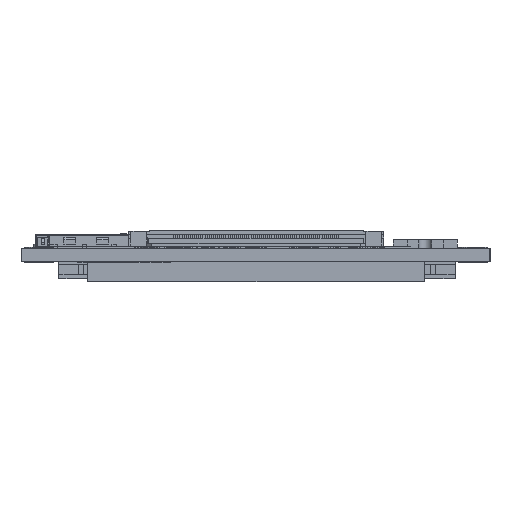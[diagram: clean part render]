
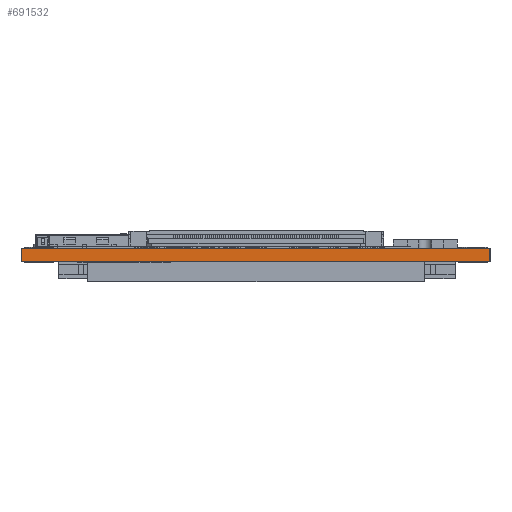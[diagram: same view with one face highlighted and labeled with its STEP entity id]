
A CAD part, front view. The second image highlights one B-rep face of the part: STEP entity #691532.
In plain terms, the highlighted free-form (B-spline) face has degree [1, 1] with [2, 2] control points.
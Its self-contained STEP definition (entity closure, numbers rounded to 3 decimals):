
#123=(GEOMETRIC_REPRESENTATION_CONTEXT(2)PARAMETRIC_REPRESENTATION_CONTEXT()REPRESENTATION_CONTEXT('',''));
#691433=CARTESIAN_POINT('',(0.,0.,-0.8));
#691434=CARTESIAN_POINT('',(0.,0.,0.8));
#691435=CARTESIAN_POINT('',(56.,0.,-0.8));
#691436=CARTESIAN_POINT('',(56.,0.,0.8));
#691437=B_SPLINE_SURFACE_WITH_KNOTS('',1,1,((#691433,#691434),(#691435,#691436)),.UNSPECIFIED.,.F.,.F.,.U.,(2,2),(2,2),(0.,0.056),(-0.002,0.),.UNSPECIFIED.);
#691438=CARTESIAN_POINT('',(56.,0.,-0.8));
#691439=VERTEX_POINT('',#691438);
#691440=CARTESIAN_POINT('',(0.,0.,-0.8));
#691441=VERTEX_POINT('',#691440);
#691442=CARTESIAN_POINT('',(-0.,0.,-0.8));
#691443=CARTESIAN_POINT('',(-0.,72.7,-0.8));
#691444=CARTESIAN_POINT('',(56.,0.,-0.8));
#691445=CARTESIAN_POINT('',(56.,72.7,-0.8));
#691446=B_SPLINE_SURFACE_WITH_KNOTS('',1,1,((#691442,#691443),(#691444,#691445)),.UNSPECIFIED.,.F.,.F.,.U.,(2,2),(2,2),(-0.,0.056),(0.,0.073),.UNSPECIFIED.);
#691447=CARTESIAN_POINT('',(0.056,-0.002));
#691448=CARTESIAN_POINT('',(0.,-0.002));
#691449=B_SPLINE_CURVE_WITH_KNOTS('',1,(#691447,#691448),.UNSPECIFIED.,.F.,.F.,(2,2),(-0.056,0.),.UNSPECIFIED.);
#691450=DEFINITIONAL_REPRESENTATION('',(#691449),#123);
#691451=PCURVE('',#691437,#691450);
#691452=CARTESIAN_POINT('',(0.056,0.));
#691453=CARTESIAN_POINT('',(0.,0.));
#691454=B_SPLINE_CURVE_WITH_KNOTS('',1,(#691452,#691453),.UNSPECIFIED.,.F.,.F.,(2,2),(-0.056,0.),.UNSPECIFIED.);
#691455=DEFINITIONAL_REPRESENTATION('',(#691454),#123);
#691456=PCURVE('',#691446,#691455);
#691457=CARTESIAN_POINT('',(56.,0.,-0.8));
#691458=CARTESIAN_POINT('',(0.,0.,-0.8));
#691459=B_SPLINE_CURVE_WITH_KNOTS('',1,(#691457,#691458),.UNSPECIFIED.,.F.,.F.,(2,2),(-0.056,0.),.UNSPECIFIED.);
#691460=INTERSECTION_CURVE('',#691459,(#691451,#691456),.PCURVE_S1.);
#691461=EDGE_CURVE('',#691439,#691441,#691460,.T.);
#691462=ORIENTED_EDGE('',*,*,#691461,.F.);
#691463=CARTESIAN_POINT('',(56.,0.,0.8));
#691464=VERTEX_POINT('',#691463);
#691465=CARTESIAN_POINT('',(56.,72.7,-0.8));
#691466=CARTESIAN_POINT('',(56.,72.7,0.8));
#691467=CARTESIAN_POINT('',(56.,0.,-0.8));
#691468=CARTESIAN_POINT('',(56.,0.,0.8));
#691469=B_SPLINE_SURFACE_WITH_KNOTS('',1,1,((#691465,#691466),(#691467,#691468)),.UNSPECIFIED.,.F.,.F.,.U.,(2,2),(2,2),(-0.073,0.),(-0.002,0.),.UNSPECIFIED.);
#691470=CARTESIAN_POINT('',(0.056,0.));
#691471=CARTESIAN_POINT('',(0.056,-0.002));
#691472=B_SPLINE_CURVE_WITH_KNOTS('',1,(#691470,#691471),.UNSPECIFIED.,.F.,.F.,(2,2),(0.,0.002),.UNSPECIFIED.);
#691473=DEFINITIONAL_REPRESENTATION('',(#691472),#123);
#691474=PCURVE('',#691437,#691473);
#691475=CARTESIAN_POINT('',(0.,0.));
#691476=CARTESIAN_POINT('',(0.,-0.002));
#691477=B_SPLINE_CURVE_WITH_KNOTS('',1,(#691475,#691476),.UNSPECIFIED.,.F.,.F.,(2,2),(0.,0.002),.UNSPECIFIED.);
#691478=DEFINITIONAL_REPRESENTATION('',(#691477),#123);
#691479=PCURVE('',#691469,#691478);
#691480=CARTESIAN_POINT('',(56.,0.,0.8));
#691481=CARTESIAN_POINT('',(56.,0.,-0.8));
#691482=B_SPLINE_CURVE_WITH_KNOTS('',1,(#691480,#691481),.UNSPECIFIED.,.F.,.F.,(2,2),(0.,0.002),.UNSPECIFIED.);
#691483=INTERSECTION_CURVE('',#691482,(#691474,#691479),.PCURVE_S1.);
#691484=EDGE_CURVE('',#691464,#691439,#691483,.T.);
#691485=ORIENTED_EDGE('',*,*,#691484,.F.);
#691486=CARTESIAN_POINT('',(0.,0.,0.8));
#691487=VERTEX_POINT('',#691486);
#691488=CARTESIAN_POINT('',(-0.,0.,0.8));
#691489=CARTESIAN_POINT('',(-0.,72.7,0.8));
#691490=CARTESIAN_POINT('',(56.,0.,0.8));
#691491=CARTESIAN_POINT('',(56.,72.7,0.8));
#691492=B_SPLINE_SURFACE_WITH_KNOTS('',1,1,((#691488,#691489),(#691490,#691491)),.UNSPECIFIED.,.F.,.F.,.U.,(2,2),(2,2),(-0.,0.056),(0.,0.073),.UNSPECIFIED.);
#691493=CARTESIAN_POINT('',(0.056,0.));
#691494=CARTESIAN_POINT('',(0.,0.));
#691495=B_SPLINE_CURVE_WITH_KNOTS('',1,(#691493,#691494),.UNSPECIFIED.,.F.,.F.,(2,2),(-0.056,0.),.UNSPECIFIED.);
#691496=DEFINITIONAL_REPRESENTATION('',(#691495),#123);
#691497=PCURVE('',#691437,#691496);
#691498=CARTESIAN_POINT('',(0.056,0.));
#691499=CARTESIAN_POINT('',(0.,0.));
#691500=B_SPLINE_CURVE_WITH_KNOTS('',1,(#691498,#691499),.UNSPECIFIED.,.F.,.F.,(2,2),(-0.056,0.),.UNSPECIFIED.);
#691501=DEFINITIONAL_REPRESENTATION('',(#691500),#123);
#691502=PCURVE('',#691492,#691501);
#691503=CARTESIAN_POINT('',(56.,0.,0.8));
#691504=CARTESIAN_POINT('',(0.,0.,0.8));
#691505=B_SPLINE_CURVE_WITH_KNOTS('',1,(#691503,#691504),.UNSPECIFIED.,.F.,.F.,(2,2),(-0.056,0.),.UNSPECIFIED.);
#691506=INTERSECTION_CURVE('',#691505,(#691497,#691502),.PCURVE_S1.);
#691507=EDGE_CURVE('',#691464,#691487,#691506,.T.);
#691508=ORIENTED_EDGE('',*,*,#691507,.T.);
#691509=CARTESIAN_POINT('',(-0.,72.7,-0.8));
#691510=CARTESIAN_POINT('',(-0.,72.7,0.8));
#691511=CARTESIAN_POINT('',(0.,0.,-0.8));
#691512=CARTESIAN_POINT('',(0.,0.,0.8));
#691513=B_SPLINE_SURFACE_WITH_KNOTS('',1,1,((#691509,#691510),(#691511,#691512)),.UNSPECIFIED.,.F.,.F.,.U.,(2,2),(2,2),(-0.073,0.),(-0.002,0.),.UNSPECIFIED.);
#691514=CARTESIAN_POINT('',(0.,0.));
#691515=CARTESIAN_POINT('',(0.,-0.002));
#691516=B_SPLINE_CURVE_WITH_KNOTS('',1,(#691514,#691515),.UNSPECIFIED.,.F.,.F.,(2,2),(0.,0.002),.UNSPECIFIED.);
#691517=DEFINITIONAL_REPRESENTATION('',(#691516),#123);
#691518=PCURVE('',#691437,#691517);
#691519=CARTESIAN_POINT('',(0.,0.));
#691520=CARTESIAN_POINT('',(0.,-0.002));
#691521=B_SPLINE_CURVE_WITH_KNOTS('',1,(#691519,#691520),.UNSPECIFIED.,.F.,.F.,(2,2),(0.,0.002),.UNSPECIFIED.);
#691522=DEFINITIONAL_REPRESENTATION('',(#691521),#123);
#691523=PCURVE('',#691513,#691522);
#691524=CARTESIAN_POINT('',(0.,0.,0.8));
#691525=CARTESIAN_POINT('',(0.,0.,-0.8));
#691526=B_SPLINE_CURVE_WITH_KNOTS('',1,(#691524,#691525),.UNSPECIFIED.,.F.,.F.,(2,2),(0.,0.002),.UNSPECIFIED.);
#691527=INTERSECTION_CURVE('',#691526,(#691518,#691523),.PCURVE_S1.);
#691528=EDGE_CURVE('',#691487,#691441,#691527,.T.);
#691529=ORIENTED_EDGE('',*,*,#691528,.T.);
#691530=EDGE_LOOP('',(#691462,#691485,#691508,#691529));
#691531=FACE_BOUND('',#691530,.T.);
#691532=ADVANCED_FACE('',(#691531),#691437,.T.);
